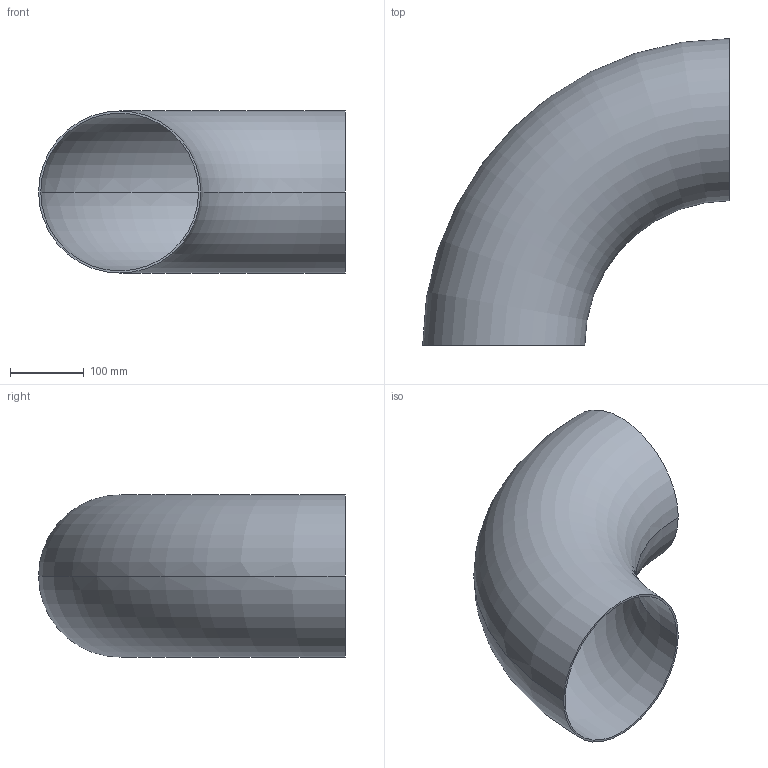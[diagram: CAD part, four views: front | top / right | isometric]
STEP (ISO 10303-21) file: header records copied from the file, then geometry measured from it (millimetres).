
FILE_DESCRIPTION (( 'STEP AP203' ), '1' );
FILE_NAME ('OT200-200-219_1x2_9_OSTP.step', '2020-12-16T02:57:35', ( '' ), ( '' ), 'SwSTEP 2.0', 'SolidWorks 2014', '' );
FILE_SCHEMA (( 'CONFIG_CONTROL_DESIGN' ));
Length unit declared in the file: millimetre
Products named in the file (1): OT200-200-219_1x2_9_OSTP
Bounding box: 414.55 x 414.55 x 219.1 mm (x, y, z)
Volume: 943676.8 mm3; surface area: 654751 mm2
Topology: 1 solids, 1 shells, 6 faces, 12 edges, 8 vertices
Faces by surface type: torus 4, plane 2
Entity records: 249 total; most frequent: DIRECTION 38, CARTESIAN_POINT 27, ORIENTED_EDGE 24, AXIS2_PLACEMENT_3D 19, CIRCLE 12, EDGE_CURVE 12, EDGE_LOOP 8, VERTEX_POINT 8
